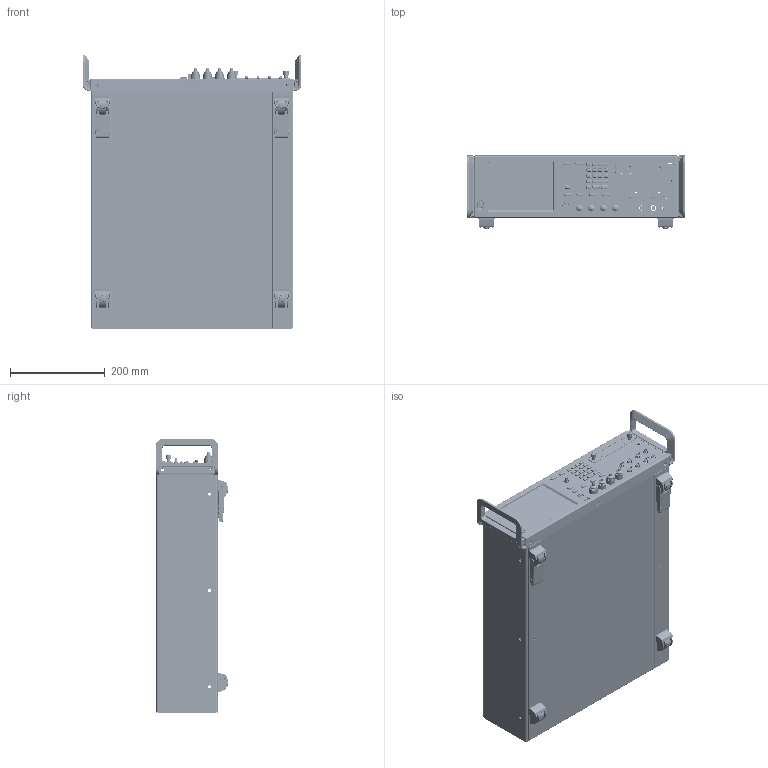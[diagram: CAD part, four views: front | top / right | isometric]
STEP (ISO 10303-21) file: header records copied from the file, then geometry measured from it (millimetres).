
FILE_DESCRIPTION((''),'2;1');
FILE_NAME('MASTER_PASCAL_PAS_ASM','2015-08-24T',('chrisco'),(''),'CREO PARAMETRIC BY PTC INC, 2014440','CREO PARAMETRIC BY PTC INC, 2014440','');
FILE_SCHEMA(('CONFIG_CONTROL_DESIGN'));
Length unit declared in the file: inch
Products named in the file (52): BRKT_FOOT_REAR_PAS; BRKT_FOOT_REAR_PAS_ASM; MODULE_CHASSIS_PAS_ASM; BRKT_PCB_SYS_REAR_PAS; BRKT_PCB_SYS_REAR_PAS_ASM; MODULE_PCB_SYS_PAS_ASM; COVER_COSMETIC_CAN_PAS; F-832-2; COVER_COSMETIC_CAN_PAS_ASM; COVER_COSMETIC_CAN_BOT_PAS; COVER_COSMETIC_CAN_BOT_PAS_ASM; GASKET_CAN_REAR_PAS; GASKET_FOAM_TRI_500X090_PAS; COVER_COSMETIC_CAN_ASSY_PAS_ASM; FOOT_STATIONARY_EXT_TEK; FOOT_FRONT_TEK; SPRING_DETENT_FOOT_TEK; FOOT_FLIP_EXT_HORZ_SUBASM_ASM; CUSHION_FOOT_TEK; FOOT_FLIP_EXTERNAL_ASM; FOOT_STATIONARY_EXTERNAL_ASM; CASE_FRONT_MASTER_PAS; MODULE_CASE_FRONT_PAS_ASM; HANDLE_FRONT_S_3U_PAS; MODULE_COSMETIC_PAS_ASM; ENCODER_NOBLE_REB162PVBS84_LIB; ENCODER_WITH_CABLE_PAS_ASM; SWITCH_EMAT_POWER_PAS; MODULE_POWER_BUTTON_PAS_ASM; BRKT_HD_FRONT_COVER_PAS; PF11-632-0; BRACKET_HD_SLED_PAS_ASM; MODULE_HD_SLED_PAS_ASM; MODULE_HARD_DRIVE_PAS_ASM; EMAT_FRONT_PAS; PCB_FP_USB_MEZZ_PAS; MH46C25; CONN_USB-A_TH_STR; MH315C157; CONN_SLIMSTACK_20_HDR_PAS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
Assembly tree (69 placements, depth 6):
  MASTER_PASCAL_PAS_ASM
    MODULE_CHASSIS_PAS_ASM
      BRKT_FOOT_REAR_PAS_ASM
        BRKT_FOOT_REAR_PAS
    MODULE_PCB_SYS_PAS_ASM
      BRKT_PCB_SYS_REAR_PAS_ASM
        BRKT_PCB_SYS_REAR_PAS
    MODULE_COSMETIC_PAS_ASM
      COVER_COSMETIC_CAN_ASSY_PAS_ASM
        COVER_COSMETIC_CAN_PAS_ASM
          COVER_COSMETIC_CAN_PAS
          F-832-2  x4
        COVER_COSMETIC_CAN_BOT_PAS_ASM
          COVER_COSMETIC_CAN_BOT_PAS
        GASKET_CAN_REAR_PAS
        GASKET_FOAM_TRI_500X090_PAS  x2
      FOOT_FLIP_EXTERNAL_ASM  x2
        FOOT_FLIP_EXT_HORZ_SUBASM_ASM
          FOOT_STATIONARY_EXT_TEK
          FOOT_FRONT_TEK
          SPRING_DETENT_FOOT_TEK
        CUSHION_FOOT_TEK
      FOOT_STATIONARY_EXTERNAL_ASM  x2
        FOOT_STATIONARY_EXT_TEK
        CUSHION_FOOT_TEK
      MODULE_CASE_FRONT_PAS_ASM
        CASE_FRONT_MASTER_PAS
      HANDLE_FRONT_S_3U_PAS  x2
    MODULE_FRONT_PAS_ASM
      ENCODER_WITH_CABLE_PAS_ASM
        ENCODER_NOBLE_REB162PVBS84_LIB
      MODULE_POWER_BUTTON_PAS_ASM
        SWITCH_EMAT_POWER_PAS
      MODULE_HARD_DRIVE_PAS_ASM
        MODULE_HD_SLED_PAS_ASM
          BRACKET_HD_SLED_PAS_ASM
            BRKT_HD_FRONT_COVER_PAS
            PF11-632-0  x2
      MODULE_FRONT_PANEL_PAS_ASM
        EMAT_FRONT_PAS
        PCB_FP_USB_MEZZ_PAS_ASM
          PCB_FP_USB_MEZZ_PAS
          MH46C25
          CONN_USB-A_TH_STR  x2
          MH315C157
          CONN_SLIMSTACK_20_HDR_PAS
      MODULE_MARKER_FRONT_PAS_ASM
        MODULE_MARKER_PAS_ASM  x2
          PCB_MARKER_PAS_ASM
            CONN_SMA-EDGE-062_F_50-OHM_LIB  x4
      CONN_SMA-PLNR_CHROWN_PAS  x4
      MODULE_DISPLAY_W_CAP_TOUCH_PAS_ASM
        TOUSCREEN_ASSY_AMT_CAP_PAS_ASM
          TOUCHSCREEN_AMT_CAP_PAS
Bounding box: 461.26 x 153.64 x 578.61 mm (x, y, z)
Volume: 1270055.7 mm3; surface area: 1701690.5 mm2
Topology: 52 solids, 52 shells, 10124 faces, 26054 edges, 16446 vertices
Faces by surface type: plane 5849, cylinder 2294, bspline 1101, cone 726, torus 92, sphere 44, extrusion 18
Entity records: 260789 total; most frequent: CARTESIAN_POINT 82176, ORIENTED_EDGE 38148, DIRECTION 34478, EDGE_CURVE 19074, VECTOR 13458, LINE 13451, VERTEX_POINT 12040, AXIS2_PLACEMENT_3D 10510
